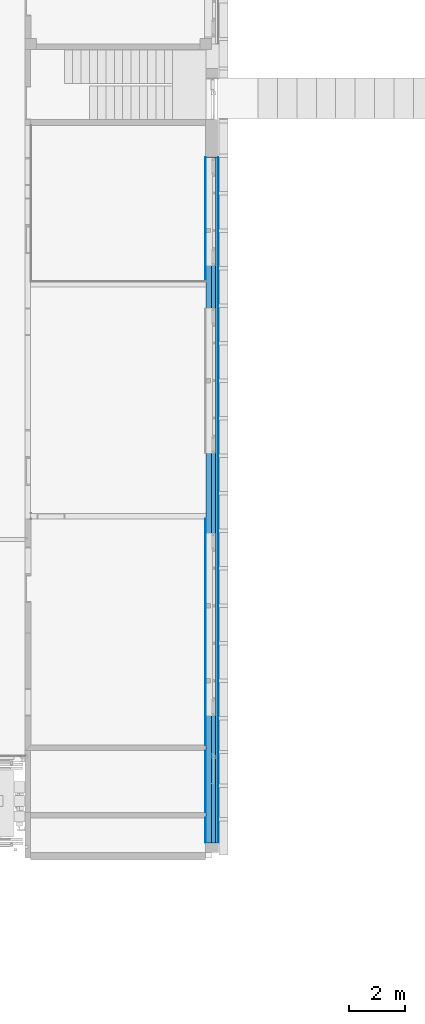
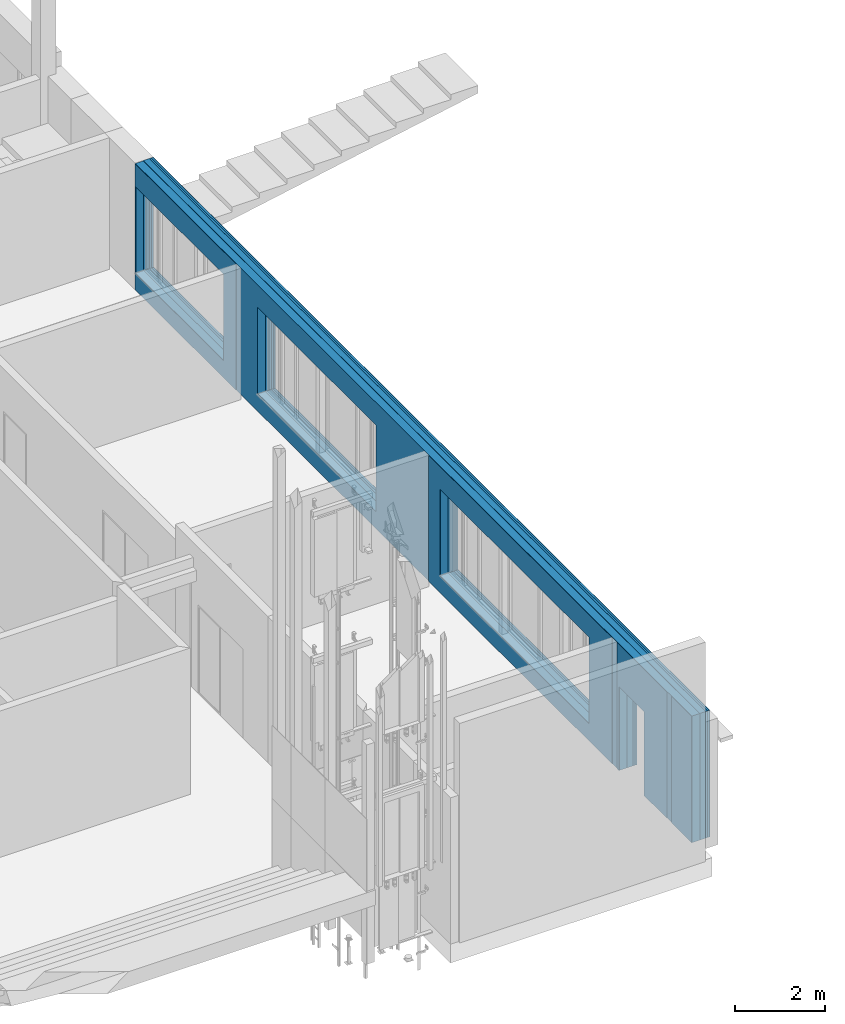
# One storey, part 84 of 89: 6 building element parts, 4 openings, 1 element without a shape of its own.
"""IFC2X3 building model written with IfcOpenShell, lengths in millimetres."""

from ifc_helpers import new_model, entity, si_unit, converted_unit, derived_unit, money_unit, direction, frame, origin_with_axes, origin_2d_with_axis, place, context, subcontext, project, spatial, polyline, rectangle, outline, extrude, boolean, faceted_brep, material, type_object, element, aggregate, save


model = new_model("IFC2X3")

# Units and contexts
model_context = context("Model", 3, precision=0.01, world=origin_with_axes(), true_north=direction((0.0, 1.0)))
body_context = subcontext(model_context, "Body", "Model", "MODEL_VIEW")
ifc_project = project(units=[si_unit("LENGTHUNIT", "METRE", prefix="MILLI"), si_unit("AREAUNIT", "SQUARE_METRE"), si_unit("VOLUMEUNIT", "CUBIC_METRE"), converted_unit("PLANEANGLEUNIT", "DEGREE", entity("IfcPlaneAngleMeasure", 0.0174532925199), si_unit("PLANEANGLEUNIT", "RADIAN"), dimensions=[0, 0, 0, 0, 0, 0, 0]), si_unit("SOLIDANGLEUNIT", "STERADIAN"), money_unit("EUR"), converted_unit("TIMEUNIT", "Year", entity("IfcTimeMeasure", 31556926.0), si_unit("TIMEUNIT", "SECOND"), dimensions=[0, 0, 1, 0, 0, 0, 0]), si_unit("MASSUNIT", "GRAM", prefix="KILO"), si_unit("THERMODYNAMICTEMPERATUREUNIT", "DEGREE_CELSIUS"), si_unit("LUMINOUSINTENSITYUNIT", "LUMEN"), si_unit("ENERGYUNIT", "JOULE", prefix="MEGA"), derived_unit("THERMALCONDUCTANCEUNIT", [(si_unit("POWERUNIT", "WATT"), 1), (si_unit("LENGTHUNIT", "METRE"), -1), (si_unit("THERMODYNAMICTEMPERATUREUNIT", "KELVIN"), -1)]), derived_unit("SPECIFICHEATCAPACITYUNIT", [(si_unit("ENERGYUNIT", "JOULE"), 1), (si_unit("MASSUNIT", "GRAM", prefix="KILO"), -1), (si_unit("THERMODYNAMICTEMPERATUREUNIT", "KELVIN"), -1)]), derived_unit("MASSDENSITYUNIT", [(si_unit("MASSUNIT", "GRAM", prefix="KILO"), 1), (si_unit("VOLUMEUNIT", "CUBIC_METRE"), -1)])], contexts=[model_context])

# Site, building, storey
site_placement = place(None, origin_with_axes())
site = spatial("IfcSite", under=ifc_project, at=site_placement, Name="Puškini 31, Narva", CompositionType="ELEMENT")
building_placement = place(site_placement, origin_with_axes())
building = spatial("IfcBuilding", under=site, at=building_placement, Name="Narva Riigigümnaasium", CompositionType="ELEMENT")
storey_placement = place(building_placement, frame((0.0, 0.0, -3300.0), z_axis=(0.0, 0.0, 1.0), x_axis=(1.0, 0.0, 0.0)))
storey = spatial("IfcBuildingStorey", under=building, at=storey_placement, Name="1.korrus -3.3", CompositionType="ELEMENT", Elevation=-3300.0)

# Wall, openings, building element parts
wall_type = type_object("IfcWallType", Name="G-VS-01 468", PredefinedType="NOTDEFINED")
wall_placement = place(storey_placement, frame((54000.000001, 219931.021835, 136.939766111), z_axis=(0.0, 0.0, 1.0), x_axis=(0.0, -1.0, 0.0)))
wall = element("IfcWall", 1, at=wall_placement, inside=storey, type_object=wall_type, Name="Välissein")
opening_1_placement = place(wall_placement, frame((8045.87056296, 0.0, 463.060233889), z_axis=(0.0, 0.0, 1.0), x_axis=(1.0, 0.0, 0.0)))
element("IfcOpeningElement", 2, at=opening_1_placement, cuts=wall, Name="G-A-25", context=body_context, shape_type="SweptSolid", body=[
    extrude(rectangle(XDim=5250.0, YDim=2340.0, at=origin_2d_with_axis()), frame((0.0, 308.0, 1170.0), z_axis=(0.0, 1.0, 0.0), x_axis=(-1.0, 0.0, 0.0)), (0.0, 0.0, -1.0), 786.0),
    extrude(rectangle(XDim=5250.0, YDim=2340.0, at=origin_2d_with_axis()), frame((0.0, 308.0, 1170.0), z_axis=(0.0, -1.0, 0.0), x_axis=(-1.0, 0.0, 0.0)), (0.0, 0.0, -1.0), 618.0),
])
opening_2_placement = place(wall_placement, frame((16820.870563, 0.0, 463.060233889), z_axis=(0.0, 0.0, 1.0), x_axis=(1.0, 0.0, 0.0)))
element("IfcOpeningElement", 3, at=opening_2_placement, cuts=wall, Name="G-A-26", context=body_context, shape_type="SweptSolid", body=[
    extrude(rectangle(XDim=6600.0, YDim=2340.0, at=origin_2d_with_axis()), frame((0.0, 308.0, 1170.0), z_axis=(0.0, 1.0, 0.0), x_axis=(-1.0, 0.0, 0.0)), (0.0, 0.0, -1.0), 786.0),
    extrude(rectangle(XDim=6600.0, YDim=2340.0, at=origin_2d_with_axis()), frame((0.0, 308.0, 1170.0), z_axis=(0.0, -1.0, 0.0), x_axis=(-1.0, 0.0, 0.0)), (0.0, 0.0, -1.0), 618.0),
])
opening_3_placement = place(wall_placement, frame((1970.87056296, 0.0, 463.060233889), z_axis=(0.0, 0.0, 1.0), x_axis=(1.0, 0.0, 0.0)))
element("IfcOpeningElement", 4, at=opening_3_placement, cuts=wall, Name="G-A-22", context=body_context, shape_type="SweptSolid", body=[
    extrude(rectangle(XDim=3900.0, YDim=2340.0, at=origin_2d_with_axis()), frame((0.0, 308.0, 1170.0), z_axis=(0.0, 1.0, 0.0), x_axis=(-1.0, 0.0, 0.0)), (0.0, 0.0, -1.0), 786.0),
    extrude(rectangle(XDim=3900.0, YDim=2340.0, at=origin_2d_with_axis()), frame((0.0, 308.0, 1170.0), z_axis=(0.0, -1.0, 0.0), x_axis=(-1.0, 0.0, 0.0)), (0.0, 0.0, -1.0), 618.0),
])
opening_4_placement = place(wall_placement, frame((22013.3324188, 0.0, -131.939766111), z_axis=(0.0, 0.0, 1.0), x_axis=(1.0, 0.0, 0.0)))
element("IfcOpeningElement", 5, at=opening_4_placement, cuts=wall, Name="G-VU-03", context=body_context, shape_type="SweptSolid", body=[
    extrude(rectangle(XDim=1111.64123724, YDim=2400.0, at=origin_2d_with_axis()), frame((0.0, 308.0, 1200.0), z_axis=(0.0, 1.0, 0.0), x_axis=(1.0, 0.0, 0.0)), (0.0, 0.0, -1.0), 786.0),
    extrude(rectangle(XDim=1111.64123724, YDim=2400.0, at=origin_2d_with_axis()), frame((0.0, 308.0, 1200.0), z_axis=(0.0, -1.0, 0.0), x_axis=(1.0, 0.0, 0.0)), (0.0, 0.0, -1.0), 618.0),
])
ifc_material_1 = material(Name="Salto-siseviimistlus-seinad")
building_element_part_1_placement = place(wall_placement, origin_with_axes())
building_element_part_1 = element("IfcBuildingElementPart", 6, at=building_element_part_1_placement, material=ifc_material_1, Name="Salto-siseviimistlus-seinad", context=body_context, shape_type="CSG", body=[
    boolean("DIFFERENCE", boolean("DIFFERENCE", boolean("DIFFERENCE", boolean("DIFFERENCE", boolean("DIFFERENCE", boolean("DIFFERENCE", extrude(outline(polyline([(0.0, -10.0), (24680.0218344, -10.0), (24680.0218344, 0.0), (0.0, 0.0), (0.0, -10.0)])), origin_with_axes(), (0.0, 0.0, 1.0), 3428.06023586), faceted_brep([(23781.0218343, -10.0, 3428.06023389), (23781.0218343, 0.0, 3428.06023557), (0.0, 0.0, 3428.06023586), (0.0, -10.0, 3428.06023586), (23781.0218343, 0.0, 0.0), (23781.0218343, -10.0, 0.0), (4481.02183448, 0.0, 0.0), (4481.02183448, 0.0, 3418.06023389), (0.0, 0.0, 3418.06023389), (23581.0218343, 0.0, 0.0), (23581.0218343, 0.0, 3418.06023389), (21361.0218311, 0.0, 3418.06023389), (21361.0218311, 0.0, 0.0), (21161.0218311, 0.0, 0.0), (21161.0218311, 0.0, 3418.06023389), (13021.0218328, 0.0, 3418.06023389), (13021.0218328, 0.0, 0.0), (0.0, -10.0, 3418.06023389), (4481.02183448, -10.0, 3418.06023389), (4481.02183448, -10.0, 0.0), (13021.0218328, -10.0, 0.0), (13021.0218328, -10.0, 3418.06023389), (21161.0218311, -10.0, 3418.06023389), (21161.0218311, -10.0, 0.0), (21361.0218311, -10.0, 0.0), (21361.0218311, -10.0, 3418.06023389), (23581.0218343, -10.0, 3418.06023389), (23581.0218343, -10.0, 0.0)], [[[0, 1, 2, 3]], [[4, 1, 0, 5]], [[6, 7, 8, 2, 1, 4, 9, 10, 11, 12, 13, 14, 15, 16]], [[8, 17, 3, 2]], [[18, 19, 20, 21, 22, 23, 24, 25, 26, 27, 5, 0, 3, 17]], [[27, 9, 4, 5]], [[7, 6, 19, 18]], [[17, 8, 7, 18]], [[10, 9, 27, 26]], [[26, 25, 11, 10]], [[12, 11, 25, 24]], [[23, 13, 12, 24]], [[14, 13, 23, 22]], [[22, 21, 15, 14]], [[16, 15, 21, 20]], [[19, 6, 16, 20]]])), faceted_brep([(23631.0218428, 199.999986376, 3428.06023586), (23631.0218428, 199.999986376, 3418.06023389), (0.0, 199.999986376, 3418.06023389), (0.0, 200.0, 3428.06023586), (23631.0218422, 0.0, 3428.06023586), (23631.0218422, 0.0, 3418.06023389), (0.0, 0.0, 3418.06023389), (12821.0218328, 0.0, 3418.06023389), (4681.02183448, 0.0, 3418.06023389), (0.0, 0.0, 3428.06023586)], [[[0, 1, 2, 3]], [[1, 0, 4, 5]], [[6, 2, 1, 5, 7, 8]], [[2, 6, 9, 3]], [[4, 0, 3, 9]], [[5, 4, 9, 6, 8, 7]]])), faceted_brep([(16071.7672009, 174.999998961, 2963.06023389), (16221.7672009, 174.999998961, 2963.06023389), (16221.7672009, 174.999998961, 463.060233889), (16071.7672009, 174.999998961, 463.060233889), (16071.7672009, 24.9999989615, 2963.06023389), (16221.7672009, 24.9999989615, 2963.06023389), (16221.7672009, 24.9999989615, 463.060233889), (16071.7672009, 24.9999989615, 463.060233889)], [[[0, 1, 2, 3]], [[4, 5, 1, 0]], [[1, 5, 6, 2]], [[7, 3, 2, 6]], [[4, 0, 3, 7]], [[5, 4, 7, 6]]])), faceted_brep([(7970.87056296, 174.999998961, 2963.06023389), (8120.87056296, 174.999998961, 2963.06023389), (8120.87056296, 174.999998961, 463.060233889), (7970.87056296, 174.999998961, 463.060233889), (7970.87056296, 24.9999989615, 2963.06023389), (8120.87056296, 24.9999989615, 2963.06023389), (8120.87056296, 24.9999989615, 463.060233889), (7970.87056296, 24.9999989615, 463.060233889)], [[[0, 1, 2, 3]], [[4, 5, 1, 0]], [[1, 5, 6, 2]], [[7, 3, 2, 6]], [[4, 0, 3, 7]], [[5, 4, 7, 6]]])), faceted_brep([(2570.87056296, 174.999998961, 2963.06023389), (2720.87056296, 174.999998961, 2963.06023389), (2720.87056296, 174.999998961, 463.060233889), (2570.87056296, 174.999998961, 463.060233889), (2570.87056296, 24.9999989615, 2963.06023389), (2720.87056296, 24.9999989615, 2963.06023389), (2720.87056296, 24.9999989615, 463.060233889), (2570.87056296, 24.9999989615, 463.060233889)], [[[0, 1, 2, 3]], [[4, 5, 1, 0]], [[1, 5, 6, 2]], [[7, 3, 2, 6]], [[4, 0, 3, 7]], [[5, 4, 7, 6]]])), faceted_brep([(18771.7672009, 174.999998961, 2963.06023389), (18921.7672009, 174.999998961, 2963.06023389), (18921.7672009, 174.999998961, 463.060233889), (18771.7672009, 174.999998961, 463.060233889), (18771.7672009, 24.9999989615, 2963.06023389), (18921.7672009, 24.9999989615, 2963.06023389), (18921.7672009, 24.9999989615, 463.060233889), (18771.7672009, 24.9999989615, 463.060233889)], [[[0, 1, 2, 3]], [[4, 5, 1, 0]], [[1, 5, 6, 2]], [[7, 3, 2, 6]], [[4, 0, 3, 7]], [[5, 4, 7, 6]]])),
])
ifc_material_2 = material(Name="Betoon element")
building_element_part_2_placement = place(wall_placement, origin_with_axes())
building_element_part_2 = element("IfcBuildingElementPart", 7, at=building_element_part_2_placement, material=ifc_material_2, Name="Betoon element", context=body_context, shape_type="CSG", body=[
    boolean("DIFFERENCE", boolean("DIFFERENCE", boolean("DIFFERENCE", boolean("DIFFERENCE", boolean("DIFFERENCE", boolean("DIFFERENCE", extrude(outline(polyline([(0.0, 0.0), (24680.0218344, 0.0), (24680.0218344, 200.0), (0.0, 200.0), (0.0, 0.0)])), origin_with_axes(), (0.0, 0.0, 1.0), 3428.06023586), faceted_brep([(23781.0218343, -10.0, 3428.06023389), (23781.0218343, 0.0, 3428.06023557), (0.0, 0.0, 3428.06023586), (0.0, -10.0, 3428.06023586), (23781.0218343, 0.0, 0.0), (23781.0218343, -10.0, 0.0), (4481.02183448, 0.0, 0.0), (4481.02183448, 0.0, 3418.06023389), (0.0, 0.0, 3418.06023389), (23581.0218343, 0.0, 0.0), (23581.0218343, 0.0, 3418.06023389), (21361.0218311, 0.0, 3418.06023389), (21361.0218311, 0.0, 0.0), (21161.0218311, 0.0, 0.0), (21161.0218311, 0.0, 3418.06023389), (13021.0218328, 0.0, 3418.06023389), (13021.0218328, 0.0, 0.0), (0.0, -10.0, 3418.06023389), (4481.02183448, -10.0, 3418.06023389), (4481.02183448, -10.0, 0.0), (13021.0218328, -10.0, 0.0), (13021.0218328, -10.0, 3418.06023389), (21161.0218311, -10.0, 3418.06023389), (21161.0218311, -10.0, 0.0), (21361.0218311, -10.0, 0.0), (21361.0218311, -10.0, 3418.06023389), (23581.0218343, -10.0, 3418.06023389), (23581.0218343, -10.0, 0.0)], [[[0, 1, 2, 3]], [[4, 1, 0, 5]], [[6, 7, 8, 2, 1, 4, 9, 10, 11, 12, 13, 14, 15, 16]], [[8, 17, 3, 2]], [[18, 19, 20, 21, 22, 23, 24, 25, 26, 27, 5, 0, 3, 17]], [[27, 9, 4, 5]], [[7, 6, 19, 18]], [[17, 8, 7, 18]], [[10, 9, 27, 26]], [[26, 25, 11, 10]], [[12, 11, 25, 24]], [[23, 13, 12, 24]], [[14, 13, 23, 22]], [[22, 21, 15, 14]], [[16, 15, 21, 20]], [[19, 6, 16, 20]]])), faceted_brep([(23631.0218428, 199.999986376, 3428.06023586), (23631.0218428, 199.999986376, 3418.06023389), (0.0, 199.999986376, 3418.06023389), (0.0, 200.0, 3428.06023586), (23631.0218422, 0.0, 3428.06023586), (23631.0218422, 0.0, 3418.06023389), (0.0, 0.0, 3418.06023389), (12821.0218328, 0.0, 3418.06023389), (4681.02183448, 0.0, 3418.06023389), (0.0, 0.0, 3428.06023586)], [[[0, 1, 2, 3]], [[1, 0, 4, 5]], [[6, 2, 1, 5, 7, 8]], [[2, 6, 9, 3]], [[4, 0, 3, 9]], [[5, 4, 9, 6, 8, 7]]])), faceted_brep([(16071.7672009, 174.999998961, 2963.06023389), (16221.7672009, 174.999998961, 2963.06023389), (16221.7672009, 174.999998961, 463.060233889), (16071.7672009, 174.999998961, 463.060233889), (16071.7672009, 24.9999989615, 2963.06023389), (16221.7672009, 24.9999989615, 2963.06023389), (16221.7672009, 24.9999989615, 463.060233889), (16071.7672009, 24.9999989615, 463.060233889)], [[[0, 1, 2, 3]], [[4, 5, 1, 0]], [[1, 5, 6, 2]], [[7, 3, 2, 6]], [[4, 0, 3, 7]], [[5, 4, 7, 6]]])), faceted_brep([(7970.87056296, 174.999998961, 2963.06023389), (8120.87056296, 174.999998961, 2963.06023389), (8120.87056296, 174.999998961, 463.060233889), (7970.87056296, 174.999998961, 463.060233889), (7970.87056296, 24.9999989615, 2963.06023389), (8120.87056296, 24.9999989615, 2963.06023389), (8120.87056296, 24.9999989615, 463.060233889), (7970.87056296, 24.9999989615, 463.060233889)], [[[0, 1, 2, 3]], [[4, 5, 1, 0]], [[1, 5, 6, 2]], [[7, 3, 2, 6]], [[4, 0, 3, 7]], [[5, 4, 7, 6]]])), faceted_brep([(2570.87056296, 174.999998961, 2963.06023389), (2720.87056296, 174.999998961, 2963.06023389), (2720.87056296, 174.999998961, 463.060233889), (2570.87056296, 174.999998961, 463.060233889), (2570.87056296, 24.9999989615, 2963.06023389), (2720.87056296, 24.9999989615, 2963.06023389), (2720.87056296, 24.9999989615, 463.060233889), (2570.87056296, 24.9999989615, 463.060233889)], [[[0, 1, 2, 3]], [[4, 5, 1, 0]], [[1, 5, 6, 2]], [[7, 3, 2, 6]], [[4, 0, 3, 7]], [[5, 4, 7, 6]]])), faceted_brep([(18771.7672009, 174.999998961, 2963.06023389), (18921.7672009, 174.999998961, 2963.06023389), (18921.7672009, 174.999998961, 463.060233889), (18771.7672009, 174.999998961, 463.060233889), (18771.7672009, 24.9999989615, 2963.06023389), (18921.7672009, 24.9999989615, 2963.06023389), (18921.7672009, 24.9999989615, 463.060233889), (18771.7672009, 24.9999989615, 463.060233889)], [[[0, 1, 2, 3]], [[4, 5, 1, 0]], [[1, 5, 6, 2]], [[7, 3, 2, 6]], [[4, 0, 3, 7]], [[5, 4, 7, 6]]])),
])
ifc_material_3 = material(Name="Salto-PIR soojustus")
building_element_part_3_placement = place(wall_placement, origin_with_axes())
building_element_part_3 = element("IfcBuildingElementPart", 8, at=building_element_part_3_placement, material=ifc_material_3, Name="Salto-PIR soojustus", context=body_context, shape_type="CSG", body=[
    boolean("DIFFERENCE", boolean("DIFFERENCE", boolean("DIFFERENCE", boolean("DIFFERENCE", boolean("DIFFERENCE", boolean("DIFFERENCE", extrude(outline(polyline([(0.0, 200.0), (24680.0218344, 200.0), (24680.0218344, 350.0), (0.0, 350.0), (0.0, 200.0)])), origin_with_axes(), (0.0, 0.0, 1.0), 3428.06023586), faceted_brep([(23781.0218343, -10.0, 3428.06023389), (23781.0218343, 0.0, 3428.06023557), (0.0, 0.0, 3428.06023586), (0.0, -10.0, 3428.06023586), (23781.0218343, 0.0, 0.0), (23781.0218343, -10.0, 0.0), (4481.02183448, 0.0, 0.0), (4481.02183448, 0.0, 3418.06023389), (0.0, 0.0, 3418.06023389), (23581.0218343, 0.0, 0.0), (23581.0218343, 0.0, 3418.06023389), (21361.0218311, 0.0, 3418.06023389), (21361.0218311, 0.0, 0.0), (21161.0218311, 0.0, 0.0), (21161.0218311, 0.0, 3418.06023389), (13021.0218328, 0.0, 3418.06023389), (13021.0218328, 0.0, 0.0), (0.0, -10.0, 3418.06023389), (4481.02183448, -10.0, 3418.06023389), (4481.02183448, -10.0, 0.0), (13021.0218328, -10.0, 0.0), (13021.0218328, -10.0, 3418.06023389), (21161.0218311, -10.0, 3418.06023389), (21161.0218311, -10.0, 0.0), (21361.0218311, -10.0, 0.0), (21361.0218311, -10.0, 3418.06023389), (23581.0218343, -10.0, 3418.06023389), (23581.0218343, -10.0, 0.0)], [[[0, 1, 2, 3]], [[4, 1, 0, 5]], [[6, 7, 8, 2, 1, 4, 9, 10, 11, 12, 13, 14, 15, 16]], [[8, 17, 3, 2]], [[18, 19, 20, 21, 22, 23, 24, 25, 26, 27, 5, 0, 3, 17]], [[27, 9, 4, 5]], [[7, 6, 19, 18]], [[17, 8, 7, 18]], [[10, 9, 27, 26]], [[26, 25, 11, 10]], [[12, 11, 25, 24]], [[23, 13, 12, 24]], [[14, 13, 23, 22]], [[22, 21, 15, 14]], [[16, 15, 21, 20]], [[19, 6, 16, 20]]])), faceted_brep([(23631.0218428, 199.999986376, 3428.06023586), (23631.0218428, 199.999986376, 3418.06023389), (0.0, 199.999986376, 3418.06023389), (0.0, 200.0, 3428.06023586), (23631.0218422, 0.0, 3428.06023586), (23631.0218422, 0.0, 3418.06023389), (0.0, 0.0, 3418.06023389), (12821.0218328, 0.0, 3418.06023389), (4681.02183448, 0.0, 3418.06023389), (0.0, 0.0, 3428.06023586)], [[[0, 1, 2, 3]], [[1, 0, 4, 5]], [[6, 2, 1, 5, 7, 8]], [[2, 6, 9, 3]], [[4, 0, 3, 9]], [[5, 4, 9, 6, 8, 7]]])), faceted_brep([(16071.7672009, 174.999998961, 2963.06023389), (16221.7672009, 174.999998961, 2963.06023389), (16221.7672009, 174.999998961, 463.060233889), (16071.7672009, 174.999998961, 463.060233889), (16071.7672009, 24.9999989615, 2963.06023389), (16221.7672009, 24.9999989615, 2963.06023389), (16221.7672009, 24.9999989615, 463.060233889), (16071.7672009, 24.9999989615, 463.060233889)], [[[0, 1, 2, 3]], [[4, 5, 1, 0]], [[1, 5, 6, 2]], [[7, 3, 2, 6]], [[4, 0, 3, 7]], [[5, 4, 7, 6]]])), faceted_brep([(7970.87056296, 174.999998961, 2963.06023389), (8120.87056296, 174.999998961, 2963.06023389), (8120.87056296, 174.999998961, 463.060233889), (7970.87056296, 174.999998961, 463.060233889), (7970.87056296, 24.9999989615, 2963.06023389), (8120.87056296, 24.9999989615, 2963.06023389), (8120.87056296, 24.9999989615, 463.060233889), (7970.87056296, 24.9999989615, 463.060233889)], [[[0, 1, 2, 3]], [[4, 5, 1, 0]], [[1, 5, 6, 2]], [[7, 3, 2, 6]], [[4, 0, 3, 7]], [[5, 4, 7, 6]]])), faceted_brep([(2570.87056296, 174.999998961, 2963.06023389), (2720.87056296, 174.999998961, 2963.06023389), (2720.87056296, 174.999998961, 463.060233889), (2570.87056296, 174.999998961, 463.060233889), (2570.87056296, 24.9999989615, 2963.06023389), (2720.87056296, 24.9999989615, 2963.06023389), (2720.87056296, 24.9999989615, 463.060233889), (2570.87056296, 24.9999989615, 463.060233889)], [[[0, 1, 2, 3]], [[4, 5, 1, 0]], [[1, 5, 6, 2]], [[7, 3, 2, 6]], [[4, 0, 3, 7]], [[5, 4, 7, 6]]])), faceted_brep([(18771.7672009, 174.999998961, 2963.06023389), (18921.7672009, 174.999998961, 2963.06023389), (18921.7672009, 174.999998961, 463.060233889), (18771.7672009, 174.999998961, 463.060233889), (18771.7672009, 24.9999989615, 2963.06023389), (18921.7672009, 24.9999989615, 2963.06023389), (18921.7672009, 24.9999989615, 463.060233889), (18771.7672009, 24.9999989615, 463.060233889)], [[[0, 1, 2, 3]], [[4, 5, 1, 0]], [[1, 5, 6, 2]], [[7, 3, 2, 6]], [[4, 0, 3, 7]], [[5, 4, 7, 6]]])),
])
building_element_part_4_placement = place(wall_placement, origin_with_axes())
building_element_part_4 = element("IfcBuildingElementPart", 9, at=building_element_part_4_placement, material=ifc_material_3, Name="Salto-PIR soojustus", context=body_context, shape_type="CSG", body=[
    boolean("DIFFERENCE", boolean("DIFFERENCE", boolean("DIFFERENCE", boolean("DIFFERENCE", boolean("DIFFERENCE", boolean("DIFFERENCE", extrude(outline(polyline([(0.0, 350.0), (24680.0218344, 350.0), (24680.0218344, 400.0), (0.0, 400.0), (0.0, 350.0)])), origin_with_axes(), (0.0, 0.0, 1.0), 3428.06023586), faceted_brep([(23781.0218343, -10.0, 3428.06023389), (23781.0218343, 0.0, 3428.06023557), (0.0, 0.0, 3428.06023586), (0.0, -10.0, 3428.06023586), (23781.0218343, 0.0, 0.0), (23781.0218343, -10.0, 0.0), (4481.02183448, 0.0, 0.0), (4481.02183448, 0.0, 3418.06023389), (0.0, 0.0, 3418.06023389), (23581.0218343, 0.0, 0.0), (23581.0218343, 0.0, 3418.06023389), (21361.0218311, 0.0, 3418.06023389), (21361.0218311, 0.0, 0.0), (21161.0218311, 0.0, 0.0), (21161.0218311, 0.0, 3418.06023389), (13021.0218328, 0.0, 3418.06023389), (13021.0218328, 0.0, 0.0), (0.0, -10.0, 3418.06023389), (4481.02183448, -10.0, 3418.06023389), (4481.02183448, -10.0, 0.0), (13021.0218328, -10.0, 0.0), (13021.0218328, -10.0, 3418.06023389), (21161.0218311, -10.0, 3418.06023389), (21161.0218311, -10.0, 0.0), (21361.0218311, -10.0, 0.0), (21361.0218311, -10.0, 3418.06023389), (23581.0218343, -10.0, 3418.06023389), (23581.0218343, -10.0, 0.0)], [[[0, 1, 2, 3]], [[4, 1, 0, 5]], [[6, 7, 8, 2, 1, 4, 9, 10, 11, 12, 13, 14, 15, 16]], [[8, 17, 3, 2]], [[18, 19, 20, 21, 22, 23, 24, 25, 26, 27, 5, 0, 3, 17]], [[27, 9, 4, 5]], [[7, 6, 19, 18]], [[17, 8, 7, 18]], [[10, 9, 27, 26]], [[26, 25, 11, 10]], [[12, 11, 25, 24]], [[23, 13, 12, 24]], [[14, 13, 23, 22]], [[22, 21, 15, 14]], [[16, 15, 21, 20]], [[19, 6, 16, 20]]])), faceted_brep([(23631.0218428, 199.999986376, 3428.06023586), (23631.0218428, 199.999986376, 3418.06023389), (0.0, 199.999986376, 3418.06023389), (0.0, 200.0, 3428.06023586), (23631.0218422, 0.0, 3428.06023586), (23631.0218422, 0.0, 3418.06023389), (0.0, 0.0, 3418.06023389), (12821.0218328, 0.0, 3418.06023389), (4681.02183448, 0.0, 3418.06023389), (0.0, 0.0, 3428.06023586)], [[[0, 1, 2, 3]], [[1, 0, 4, 5]], [[6, 2, 1, 5, 7, 8]], [[2, 6, 9, 3]], [[4, 0, 3, 9]], [[5, 4, 9, 6, 8, 7]]])), faceted_brep([(16071.7672009, 174.999998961, 2963.06023389), (16221.7672009, 174.999998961, 2963.06023389), (16221.7672009, 174.999998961, 463.060233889), (16071.7672009, 174.999998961, 463.060233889), (16071.7672009, 24.9999989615, 2963.06023389), (16221.7672009, 24.9999989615, 2963.06023389), (16221.7672009, 24.9999989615, 463.060233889), (16071.7672009, 24.9999989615, 463.060233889)], [[[0, 1, 2, 3]], [[4, 5, 1, 0]], [[1, 5, 6, 2]], [[7, 3, 2, 6]], [[4, 0, 3, 7]], [[5, 4, 7, 6]]])), faceted_brep([(7970.87056296, 174.999998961, 2963.06023389), (8120.87056296, 174.999998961, 2963.06023389), (8120.87056296, 174.999998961, 463.060233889), (7970.87056296, 174.999998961, 463.060233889), (7970.87056296, 24.9999989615, 2963.06023389), (8120.87056296, 24.9999989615, 2963.06023389), (8120.87056296, 24.9999989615, 463.060233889), (7970.87056296, 24.9999989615, 463.060233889)], [[[0, 1, 2, 3]], [[4, 5, 1, 0]], [[1, 5, 6, 2]], [[7, 3, 2, 6]], [[4, 0, 3, 7]], [[5, 4, 7, 6]]])), faceted_brep([(2570.87056296, 174.999998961, 2963.06023389), (2720.87056296, 174.999998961, 2963.06023389), (2720.87056296, 174.999998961, 463.060233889), (2570.87056296, 174.999998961, 463.060233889), (2570.87056296, 24.9999989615, 2963.06023389), (2720.87056296, 24.9999989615, 2963.06023389), (2720.87056296, 24.9999989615, 463.060233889), (2570.87056296, 24.9999989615, 463.060233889)], [[[0, 1, 2, 3]], [[4, 5, 1, 0]], [[1, 5, 6, 2]], [[7, 3, 2, 6]], [[4, 0, 3, 7]], [[5, 4, 7, 6]]])), faceted_brep([(18771.7672009, 174.999998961, 2963.06023389), (18921.7672009, 174.999998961, 2963.06023389), (18921.7672009, 174.999998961, 463.060233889), (18771.7672009, 174.999998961, 463.060233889), (18771.7672009, 24.9999989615, 2963.06023389), (18921.7672009, 24.9999989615, 2963.06023389), (18921.7672009, 24.9999989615, 463.060233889), (18771.7672009, 24.9999989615, 463.060233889)], [[[0, 1, 2, 3]], [[4, 5, 1, 0]], [[1, 5, 6, 2]], [[7, 3, 2, 6]], [[4, 0, 3, 7]], [[5, 4, 7, 6]]])),
])
ifc_material_4 = material(Name="Salto-roovitus")
building_element_part_5_placement = place(wall_placement, origin_with_axes())
building_element_part_5 = element("IfcBuildingElementPart", 10, at=building_element_part_5_placement, material=ifc_material_4, Name="Salto-roovitus", context=body_context, shape_type="CSG", body=[
    boolean("DIFFERENCE", boolean("DIFFERENCE", boolean("DIFFERENCE", boolean("DIFFERENCE", boolean("DIFFERENCE", boolean("DIFFERENCE", extrude(outline(polyline([(0.0, 400.0), (24680.0218344, 400.0), (24680.0218344, 450.0), (0.0, 450.0), (0.0, 400.0)])), origin_with_axes(), (0.0, 0.0, 1.0), 3428.06023586), faceted_brep([(23781.0218343, -10.0, 3428.06023389), (23781.0218343, 0.0, 3428.06023557), (0.0, 0.0, 3428.06023586), (0.0, -10.0, 3428.06023586), (23781.0218343, 0.0, 0.0), (23781.0218343, -10.0, 0.0), (4481.02183448, 0.0, 0.0), (4481.02183448, 0.0, 3418.06023389), (0.0, 0.0, 3418.06023389), (23581.0218343, 0.0, 0.0), (23581.0218343, 0.0, 3418.06023389), (21361.0218311, 0.0, 3418.06023389), (21361.0218311, 0.0, 0.0), (21161.0218311, 0.0, 0.0), (21161.0218311, 0.0, 3418.06023389), (13021.0218328, 0.0, 3418.06023389), (13021.0218328, 0.0, 0.0), (0.0, -10.0, 3418.06023389), (4481.02183448, -10.0, 3418.06023389), (4481.02183448, -10.0, 0.0), (13021.0218328, -10.0, 0.0), (13021.0218328, -10.0, 3418.06023389), (21161.0218311, -10.0, 3418.06023389), (21161.0218311, -10.0, 0.0), (21361.0218311, -10.0, 0.0), (21361.0218311, -10.0, 3418.06023389), (23581.0218343, -10.0, 3418.06023389), (23581.0218343, -10.0, 0.0)], [[[0, 1, 2, 3]], [[4, 1, 0, 5]], [[6, 7, 8, 2, 1, 4, 9, 10, 11, 12, 13, 14, 15, 16]], [[8, 17, 3, 2]], [[18, 19, 20, 21, 22, 23, 24, 25, 26, 27, 5, 0, 3, 17]], [[27, 9, 4, 5]], [[7, 6, 19, 18]], [[17, 8, 7, 18]], [[10, 9, 27, 26]], [[26, 25, 11, 10]], [[12, 11, 25, 24]], [[23, 13, 12, 24]], [[14, 13, 23, 22]], [[22, 21, 15, 14]], [[16, 15, 21, 20]], [[19, 6, 16, 20]]])), faceted_brep([(23631.0218428, 199.999986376, 3428.06023586), (23631.0218428, 199.999986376, 3418.06023389), (0.0, 199.999986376, 3418.06023389), (0.0, 200.0, 3428.06023586), (23631.0218422, 0.0, 3428.06023586), (23631.0218422, 0.0, 3418.06023389), (0.0, 0.0, 3418.06023389), (12821.0218328, 0.0, 3418.06023389), (4681.02183448, 0.0, 3418.06023389), (0.0, 0.0, 3428.06023586)], [[[0, 1, 2, 3]], [[1, 0, 4, 5]], [[6, 2, 1, 5, 7, 8]], [[2, 6, 9, 3]], [[4, 0, 3, 9]], [[5, 4, 9, 6, 8, 7]]])), faceted_brep([(16071.7672009, 174.999998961, 2963.06023389), (16221.7672009, 174.999998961, 2963.06023389), (16221.7672009, 174.999998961, 463.060233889), (16071.7672009, 174.999998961, 463.060233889), (16071.7672009, 24.9999989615, 2963.06023389), (16221.7672009, 24.9999989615, 2963.06023389), (16221.7672009, 24.9999989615, 463.060233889), (16071.7672009, 24.9999989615, 463.060233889)], [[[0, 1, 2, 3]], [[4, 5, 1, 0]], [[1, 5, 6, 2]], [[7, 3, 2, 6]], [[4, 0, 3, 7]], [[5, 4, 7, 6]]])), faceted_brep([(7970.87056296, 174.999998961, 2963.06023389), (8120.87056296, 174.999998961, 2963.06023389), (8120.87056296, 174.999998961, 463.060233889), (7970.87056296, 174.999998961, 463.060233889), (7970.87056296, 24.9999989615, 2963.06023389), (8120.87056296, 24.9999989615, 2963.06023389), (8120.87056296, 24.9999989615, 463.060233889), (7970.87056296, 24.9999989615, 463.060233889)], [[[0, 1, 2, 3]], [[4, 5, 1, 0]], [[1, 5, 6, 2]], [[7, 3, 2, 6]], [[4, 0, 3, 7]], [[5, 4, 7, 6]]])), faceted_brep([(2570.87056296, 174.999998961, 2963.06023389), (2720.87056296, 174.999998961, 2963.06023389), (2720.87056296, 174.999998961, 463.060233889), (2570.87056296, 174.999998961, 463.060233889), (2570.87056296, 24.9999989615, 2963.06023389), (2720.87056296, 24.9999989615, 2963.06023389), (2720.87056296, 24.9999989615, 463.060233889), (2570.87056296, 24.9999989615, 463.060233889)], [[[0, 1, 2, 3]], [[4, 5, 1, 0]], [[1, 5, 6, 2]], [[7, 3, 2, 6]], [[4, 0, 3, 7]], [[5, 4, 7, 6]]])), faceted_brep([(18771.7672009, 174.999998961, 2963.06023389), (18921.7672009, 174.999998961, 2963.06023389), (18921.7672009, 174.999998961, 463.060233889), (18771.7672009, 174.999998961, 463.060233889), (18771.7672009, 24.9999989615, 2963.06023389), (18921.7672009, 24.9999989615, 2963.06023389), (18921.7672009, 24.9999989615, 463.060233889), (18771.7672009, 24.9999989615, 463.060233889)], [[[0, 1, 2, 3]], [[4, 5, 1, 0]], [[1, 5, 6, 2]], [[7, 3, 2, 6]], [[4, 0, 3, 7]], [[5, 4, 7, 6]]])),
])
ifc_material_5 = material(Name="fassaadiplaat")
building_element_part_6_placement = place(wall_placement, origin_with_axes())
building_element_part_6 = element("IfcBuildingElementPart", 11, at=building_element_part_6_placement, material=ifc_material_5, Name="fassaadiplaat", context=body_context, shape_type="CSG", body=[
    boolean("DIFFERENCE", boolean("DIFFERENCE", boolean("DIFFERENCE", boolean("DIFFERENCE", boolean("DIFFERENCE", boolean("DIFFERENCE", extrude(outline(polyline([(0.0, 450.0), (24680.0218344, 450.0), (24680.0218344, 458.0), (0.0, 458.0), (0.0, 450.0)])), origin_with_axes(), (0.0, 0.0, 1.0), 3428.06023586), faceted_brep([(23781.0218343, -10.0, 3428.06023389), (23781.0218343, 0.0, 3428.06023557), (0.0, 0.0, 3428.06023586), (0.0, -10.0, 3428.06023586), (23781.0218343, 0.0, 0.0), (23781.0218343, -10.0, 0.0), (4481.02183448, 0.0, 0.0), (4481.02183448, 0.0, 3418.06023389), (0.0, 0.0, 3418.06023389), (23581.0218343, 0.0, 0.0), (23581.0218343, 0.0, 3418.06023389), (21361.0218311, 0.0, 3418.06023389), (21361.0218311, 0.0, 0.0), (21161.0218311, 0.0, 0.0), (21161.0218311, 0.0, 3418.06023389), (13021.0218328, 0.0, 3418.06023389), (13021.0218328, 0.0, 0.0), (0.0, -10.0, 3418.06023389), (4481.02183448, -10.0, 3418.06023389), (4481.02183448, -10.0, 0.0), (13021.0218328, -10.0, 0.0), (13021.0218328, -10.0, 3418.06023389), (21161.0218311, -10.0, 3418.06023389), (21161.0218311, -10.0, 0.0), (21361.0218311, -10.0, 0.0), (21361.0218311, -10.0, 3418.06023389), (23581.0218343, -10.0, 3418.06023389), (23581.0218343, -10.0, 0.0)], [[[0, 1, 2, 3]], [[4, 1, 0, 5]], [[6, 7, 8, 2, 1, 4, 9, 10, 11, 12, 13, 14, 15, 16]], [[8, 17, 3, 2]], [[18, 19, 20, 21, 22, 23, 24, 25, 26, 27, 5, 0, 3, 17]], [[27, 9, 4, 5]], [[7, 6, 19, 18]], [[17, 8, 7, 18]], [[10, 9, 27, 26]], [[26, 25, 11, 10]], [[12, 11, 25, 24]], [[23, 13, 12, 24]], [[14, 13, 23, 22]], [[22, 21, 15, 14]], [[16, 15, 21, 20]], [[19, 6, 16, 20]]])), faceted_brep([(23631.0218428, 199.999986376, 3428.06023586), (23631.0218428, 199.999986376, 3418.06023389), (0.0, 199.999986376, 3418.06023389), (0.0, 200.0, 3428.06023586), (23631.0218422, 0.0, 3428.06023586), (23631.0218422, 0.0, 3418.06023389), (0.0, 0.0, 3418.06023389), (12821.0218328, 0.0, 3418.06023389), (4681.02183448, 0.0, 3418.06023389), (0.0, 0.0, 3428.06023586)], [[[0, 1, 2, 3]], [[1, 0, 4, 5]], [[6, 2, 1, 5, 7, 8]], [[2, 6, 9, 3]], [[4, 0, 3, 9]], [[5, 4, 9, 6, 8, 7]]])), faceted_brep([(16071.7672009, 174.999998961, 2963.06023389), (16221.7672009, 174.999998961, 2963.06023389), (16221.7672009, 174.999998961, 463.060233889), (16071.7672009, 174.999998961, 463.060233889), (16071.7672009, 24.9999989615, 2963.06023389), (16221.7672009, 24.9999989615, 2963.06023389), (16221.7672009, 24.9999989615, 463.060233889), (16071.7672009, 24.9999989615, 463.060233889)], [[[0, 1, 2, 3]], [[4, 5, 1, 0]], [[1, 5, 6, 2]], [[7, 3, 2, 6]], [[4, 0, 3, 7]], [[5, 4, 7, 6]]])), faceted_brep([(7970.87056296, 174.999998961, 2963.06023389), (8120.87056296, 174.999998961, 2963.06023389), (8120.87056296, 174.999998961, 463.060233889), (7970.87056296, 174.999998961, 463.060233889), (7970.87056296, 24.9999989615, 2963.06023389), (8120.87056296, 24.9999989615, 2963.06023389), (8120.87056296, 24.9999989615, 463.060233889), (7970.87056296, 24.9999989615, 463.060233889)], [[[0, 1, 2, 3]], [[4, 5, 1, 0]], [[1, 5, 6, 2]], [[7, 3, 2, 6]], [[4, 0, 3, 7]], [[5, 4, 7, 6]]])), faceted_brep([(2570.87056296, 174.999998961, 2963.06023389), (2720.87056296, 174.999998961, 2963.06023389), (2720.87056296, 174.999998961, 463.060233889), (2570.87056296, 174.999998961, 463.060233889), (2570.87056296, 24.9999989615, 2963.06023389), (2720.87056296, 24.9999989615, 2963.06023389), (2720.87056296, 24.9999989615, 463.060233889), (2570.87056296, 24.9999989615, 463.060233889)], [[[0, 1, 2, 3]], [[4, 5, 1, 0]], [[1, 5, 6, 2]], [[7, 3, 2, 6]], [[4, 0, 3, 7]], [[5, 4, 7, 6]]])), faceted_brep([(18771.7672009, 174.999998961, 2963.06023389), (18921.7672009, 174.999998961, 2963.06023389), (18921.7672009, 174.999998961, 463.060233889), (18771.7672009, 174.999998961, 463.060233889), (18771.7672009, 24.9999989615, 2963.06023389), (18921.7672009, 24.9999989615, 2963.06023389), (18921.7672009, 24.9999989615, 463.060233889), (18771.7672009, 24.9999989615, 463.060233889)], [[[0, 1, 2, 3]], [[4, 5, 1, 0]], [[1, 5, 6, 2]], [[7, 3, 2, 6]], [[4, 0, 3, 7]], [[5, 4, 7, 6]]])),
])
aggregate(wall, [building_element_part_1, building_element_part_2, building_element_part_3, building_element_part_4, building_element_part_5, building_element_part_6])

save(model, "model.ifc")
